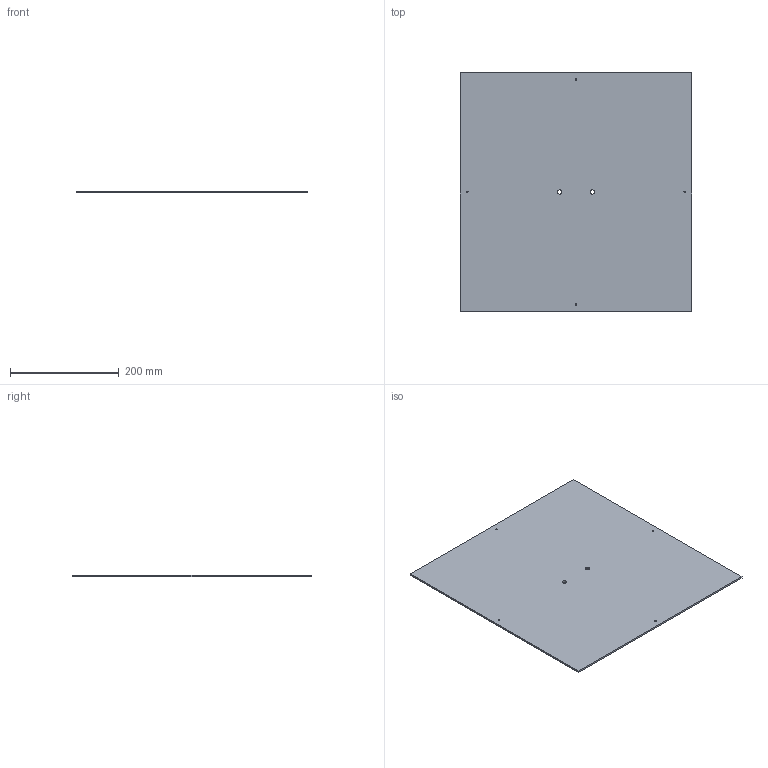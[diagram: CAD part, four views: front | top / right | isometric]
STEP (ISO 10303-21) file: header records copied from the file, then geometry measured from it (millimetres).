
FILE_DESCRIPTION(/* description */ ('STEP AP242','CAx-IF Rec.Pracs.---Representation and Presentation of Product Manufacturing Information (PMI)---4.0---2014-10-13','CAx-IF Rec.Pracs.---3D Tessellated Geometry---0.4---2014-09-14','2;1'),/* implementation_level */ '2;1');
FILE_NAME(/* name */ '67647f14d010456458e3202a',/* time_stamp */ '2024-12-19T20:16:20Z',/* author */ (''),/* organization */ (''),/* preprocessor_version */ 'ST-DEVELOPER v20',/* originating_system */ 'ONSHAPE BY PTC INC, 1.191',/* authorisation */ ' ');
FILE_SCHEMA (('AP242_MANAGED_MODEL_BASED_3D_ENGINEERING_MIM_LF { 1 0 10303 442 1 1 4 }'));
Length unit declared in the file: metre
Products named in the file (1): Part 1
Bounding box: 424.94 x 437.64 x 3.17 mm (x, y, z)
Volume: 590036.7 mm3; surface area: 377443.1 mm2
Topology: 1 solids, 1 shells, 12 faces, 30 edges, 20 vertices
Faces by surface type: plane 6, cylinder 6
Full cylindrical faces by diameter (mm): 3.226 x4, 8.037 x2
Entity records: 382 total; most frequent: DIRECTION 62, CARTESIAN_POINT 57, ORIENTED_EDGE 48, EDGE_LOOP 30, FACE_BOUND 30, AXIS2_PLACEMENT_3D 25, EDGE_CURVE 24, VERTEX_POINT 20
